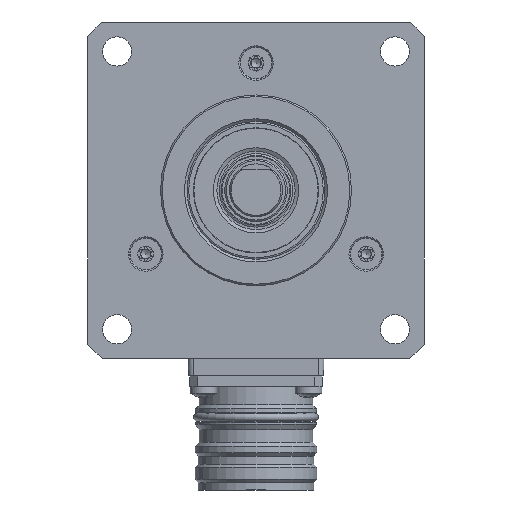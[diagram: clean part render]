
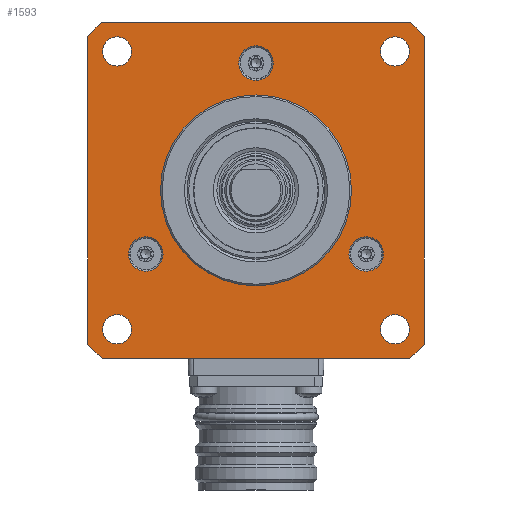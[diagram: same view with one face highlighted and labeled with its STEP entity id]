
A CAD part, left-side view. The second image highlights one B-rep face of the part: STEP entity #1593.
In plain terms, the highlighted planar face has unit normal (-1, 0, 0).
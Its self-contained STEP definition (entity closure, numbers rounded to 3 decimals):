
#1593 = ADVANCED_FACE( '', ( #3638, #3639, #3640, #3641, #3642, #3643, #3644, #3645, #3646 ), #3647, .T. );
#3638 = FACE_OUTER_BOUND( '', #9647, .T. );
#3639 = FACE_BOUND( '', #9648, .T. );
#3640 = FACE_BOUND( '', #9649, .T. );
#3641 = FACE_BOUND( '', #9650, .T. );
#3642 = FACE_BOUND( '', #9651, .T. );
#3643 = FACE_BOUND( '', #9652, .T. );
#3644 = FACE_BOUND( '', #9653, .T. );
#3645 = FACE_BOUND( '', #9654, .T. );
#3646 = FACE_BOUND( '', #9655, .T. );
#3647 = PLANE( '', #9656 );
#9647 = EDGE_LOOP( '', ( #16731, #16732, #16733, #16734, #16735, #16736, #16737, #16738 ) );
#9648 = EDGE_LOOP( '', ( #16739 ) );
#9649 = EDGE_LOOP( '', ( #16740 ) );
#9650 = EDGE_LOOP( '', ( #16741 ) );
#9651 = EDGE_LOOP( '', ( #16742 ) );
#9652 = EDGE_LOOP( '', ( #16743 ) );
#9653 = EDGE_LOOP( '', ( #16744 ) );
#9654 = EDGE_LOOP( '', ( #16745 ) );
#9655 = EDGE_LOOP( '', ( #16746 ) );
#9656 = AXIS2_PLACEMENT_3D( '', #16747, #16748, #16749 );
#16731 = ORIENTED_EDGE( '', *, *, #20921, .F. );
#16732 = ORIENTED_EDGE( '', *, *, #19442, .F. );
#16733 = ORIENTED_EDGE( '', *, *, #20873, .F. );
#16734 = ORIENTED_EDGE( '', *, *, #20922, .F. );
#16735 = ORIENTED_EDGE( '', *, *, #20923, .F. );
#16736 = ORIENTED_EDGE( '', *, *, #19437, .F. );
#16737 = ORIENTED_EDGE( '', *, *, #20759, .F. );
#16738 = ORIENTED_EDGE( '', *, *, #19585, .F. );
#16739 = ORIENTED_EDGE( '', *, *, #20924, .T. );
#16740 = ORIENTED_EDGE( '', *, *, #20761, .T. );
#16741 = ORIENTED_EDGE( '', *, *, #20532, .T. );
#16742 = ORIENTED_EDGE( '', *, *, #19601, .F. );
#16743 = ORIENTED_EDGE( '', *, *, #20925, .F. );
#16744 = ORIENTED_EDGE( '', *, *, #20926, .F. );
#16745 = ORIENTED_EDGE( '', *, *, #20927, .F. );
#16746 = ORIENTED_EDGE( '', *, *, #19336, .F. );
#16747 = CARTESIAN_POINT( '', ( 7.62, -0.449, 0. ) );
#16748 = DIRECTION( '', ( -1., 0., 0. ) );
#16749 = DIRECTION( '', ( 0., 0., 1. ) );
#19336 = EDGE_CURVE( '', #21553, #21553, #21554, .T. );
#19437 = EDGE_CURVE( '', #21734, #21735, #21736, .T. );
#19442 = EDGE_CURVE( '', #21743, #21744, #21745, .T. );
#19585 = EDGE_CURVE( '', #21993, #21994, #21995, .T. );
#19601 = EDGE_CURVE( '', #22022, #22022, #22023, .T. );
#20532 = EDGE_CURVE( '', #23501, #23501, #23502, .T. );
#20759 = EDGE_CURVE( '', #21994, #21734, #23827, .T. );
#20761 = EDGE_CURVE( '', #23829, #23829, #23830, .T. );
#20873 = EDGE_CURVE( '', #23978, #21743, #23979, .T. );
#20921 = EDGE_CURVE( '', #21744, #21993, #24038, .T. );
#20922 = EDGE_CURVE( '', #24039, #23978, #24040, .T. );
#20923 = EDGE_CURVE( '', #21735, #24039, #24041, .T. );
#20924 = EDGE_CURVE( '', #24042, #24042, #24043, .T. );
#20925 = EDGE_CURVE( '', #24044, #24044, #24045, .T. );
#20926 = EDGE_CURVE( '', #24046, #24046, #24047, .T. );
#20927 = EDGE_CURVE( '', #24048, #24048, #24049, .T. );
#21553 = VERTEX_POINT( '', #24774 );
#21554 = CIRCLE( '', #24775, 18. );
#21734 = VERTEX_POINT( '', #31339 );
#21735 = VERTEX_POINT( '', #31340 );
#21736 = LINE( '', #31341, #31342 );
#21743 = VERTEX_POINT( '', #31352 );
#21744 = VERTEX_POINT( '', #31353 );
#21745 = LINE( '', #31354, #31355 );
#21993 = VERTEX_POINT( '', #31778 );
#21994 = VERTEX_POINT( '', #31779 );
#21995 = LINE( '', #31780, #31781 );
#22022 = VERTEX_POINT( '', #31819 );
#22023 = CIRCLE( '', #31820, 2.75 );
#23501 = VERTEX_POINT( '', #42409 );
#23502 = CIRCLE( '', #42410, 3.25 );
#23827 = CIRCLE( '', #45872, 43. );
#23829 = VERTEX_POINT( '', #45874 );
#23830 = CIRCLE( '', #45875, 3.25 );
#23978 = VERTEX_POINT( '', #48174 );
#23979 = CIRCLE( '', #48175, 43. );
#24038 = CIRCLE( '', #48245, 43. );
#24039 = VERTEX_POINT( '', #48246 );
#24040 = LINE( '', #48247, #48248 );
#24041 = CIRCLE( '', #48249, 43. );
#24042 = VERTEX_POINT( '', #48250 );
#24043 = CIRCLE( '', #48251, 3.25 );
#24044 = VERTEX_POINT( '', #48252 );
#24045 = CIRCLE( '', #48253, 2.75 );
#24046 = VERTEX_POINT( '', #48254 );
#24047 = CIRCLE( '', #48255, 2.75 );
#24048 = VERTEX_POINT( '', #48256 );
#24049 = CIRCLE( '', #48257, 2.75 );
#24774 = CARTESIAN_POINT( '', ( 7.62, -18., 0. ) );
#24775 = AXIS2_PLACEMENT_3D( '', #52353, #52354, #52355 );
#31339 = CARTESIAN_POINT( '', ( 7.62, 31.75, -28.999 ) );
#31340 = CARTESIAN_POINT( '', ( 7.62, 31.75, 28.999 ) );
#31341 = CARTESIAN_POINT( '', ( 7.62, 31.75, 28.999 ) );
#31342 = VECTOR( '', #52488, 1000. );
#31352 = CARTESIAN_POINT( '', ( 7.62, -31.75, 28.999 ) );
#31353 = CARTESIAN_POINT( '', ( 7.62, -31.75, -28.999 ) );
#31354 = CARTESIAN_POINT( '', ( 7.62, -31.75, -28.999 ) );
#31355 = VECTOR( '', #52492, 1000. );
#31778 = CARTESIAN_POINT( '', ( 7.62, -28.999, -31.75 ) );
#31779 = CARTESIAN_POINT( '', ( 7.62, 28.999, -31.75 ) );
#31780 = CARTESIAN_POINT( '', ( 7.62, 28.999, -31.75 ) );
#31781 = VECTOR( '', #52665, 1000. );
#31819 = CARTESIAN_POINT( '', ( 7.62, 23.45, 26.2 ) );
#31820 = AXIS2_PLACEMENT_3D( '', #52686, #52687, #52688 );
#42409 = CARTESIAN_POINT( '', ( 7.62, 0., 27.25 ) );
#42410 = AXIS2_PLACEMENT_3D( '', #53565, #53566, #53567 );
#45872 = AXIS2_PLACEMENT_3D( '', #53781, #53782, #53783 );
#45874 = CARTESIAN_POINT( '', ( 7.62, -23.599, -13.625 ) );
#45875 = AXIS2_PLACEMENT_3D( '', #53784, #53785, #53786 );
#48174 = CARTESIAN_POINT( '', ( 7.62, -28.999, 31.75 ) );
#48175 = AXIS2_PLACEMENT_3D( '', #53873, #53874, #53875 );
#48245 = AXIS2_PLACEMENT_3D( '', #53935, #53936, #53937 );
#48246 = CARTESIAN_POINT( '', ( 7.62, 28.999, 31.75 ) );
#48247 = CARTESIAN_POINT( '', ( 7.62, -28.999, 31.75 ) );
#48248 = VECTOR( '', #53938, 1000. );
#48249 = AXIS2_PLACEMENT_3D( '', #53939, #53940, #53941 );
#48250 = CARTESIAN_POINT( '', ( 7.62, 23.599, -13.625 ) );
#48251 = AXIS2_PLACEMENT_3D( '', #53942, #53943, #53944 );
#48252 = CARTESIAN_POINT( '', ( 7.62, -28.95, 26.2 ) );
#48253 = AXIS2_PLACEMENT_3D( '', #53945, #53946, #53947 );
#48254 = CARTESIAN_POINT( '', ( 7.62, -28.95, -26.2 ) );
#48255 = AXIS2_PLACEMENT_3D( '', #53948, #53949, #53950 );
#48256 = CARTESIAN_POINT( '', ( 7.62, 23.45, -26.2 ) );
#48257 = AXIS2_PLACEMENT_3D( '', #53951, #53952, #53953 );
#52353 = CARTESIAN_POINT( '', ( 7.62, 0., 0. ) );
#52354 = DIRECTION( '', ( -1., 0., 0. ) );
#52355 = DIRECTION( '', ( 0., -1., 0. ) );
#52488 = DIRECTION( '', ( 0., 0., 1. ) );
#52492 = DIRECTION( '', ( 0., 0., -1. ) );
#52665 = DIRECTION( '', ( 0., 1., 0. ) );
#52686 = CARTESIAN_POINT( '', ( 7.62, 26.2, 26.2 ) );
#52687 = DIRECTION( '', ( -1., 0., 0. ) );
#52688 = DIRECTION( '', ( 0., -1., 0. ) );
#53565 = CARTESIAN_POINT( '', ( 7.62, 0., 24. ) );
#53566 = DIRECTION( '', ( 1., 0., 0. ) );
#53567 = DIRECTION( '', ( 0., 0., 1. ) );
#53781 = CARTESIAN_POINT( '', ( 7.62, 0., 0. ) );
#53782 = DIRECTION( '', ( 1., 0., 0. ) );
#53783 = DIRECTION( '', ( 0., -1., 0. ) );
#53784 = CARTESIAN_POINT( '', ( 7.62, -20.785, -12. ) );
#53785 = DIRECTION( '', ( 1., 0., 0. ) );
#53786 = DIRECTION( '', ( 0., -0.866, -0.5 ) );
#53873 = CARTESIAN_POINT( '', ( 7.62, 0., 0. ) );
#53874 = DIRECTION( '', ( 1., 0., 0. ) );
#53875 = DIRECTION( '', ( 0., -1., 0. ) );
#53935 = CARTESIAN_POINT( '', ( 7.62, 0., 0. ) );
#53936 = DIRECTION( '', ( 1., 0., 0. ) );
#53937 = DIRECTION( '', ( 0., -1., 0. ) );
#53938 = DIRECTION( '', ( 0., -1., 0. ) );
#53939 = CARTESIAN_POINT( '', ( 7.62, 0., 0. ) );
#53940 = DIRECTION( '', ( 1., 0., 0. ) );
#53941 = DIRECTION( '', ( 0., -1., 0. ) );
#53942 = CARTESIAN_POINT( '', ( 7.62, 20.785, -12. ) );
#53943 = DIRECTION( '', ( 1., 0., 0. ) );
#53944 = DIRECTION( '', ( 0., 0.866, -0.5 ) );
#53945 = CARTESIAN_POINT( '', ( 7.62, -26.2, 26.2 ) );
#53946 = DIRECTION( '', ( -1., 0., 0. ) );
#53947 = DIRECTION( '', ( 0., -1., 0. ) );
#53948 = CARTESIAN_POINT( '', ( 7.62, -26.2, -26.2 ) );
#53949 = DIRECTION( '', ( -1., 0., 0. ) );
#53950 = DIRECTION( '', ( 0., -1., 0. ) );
#53951 = CARTESIAN_POINT( '', ( 7.62, 26.2, -26.2 ) );
#53952 = DIRECTION( '', ( -1., 0., 0. ) );
#53953 = DIRECTION( '', ( 0., -1., 0. ) );
